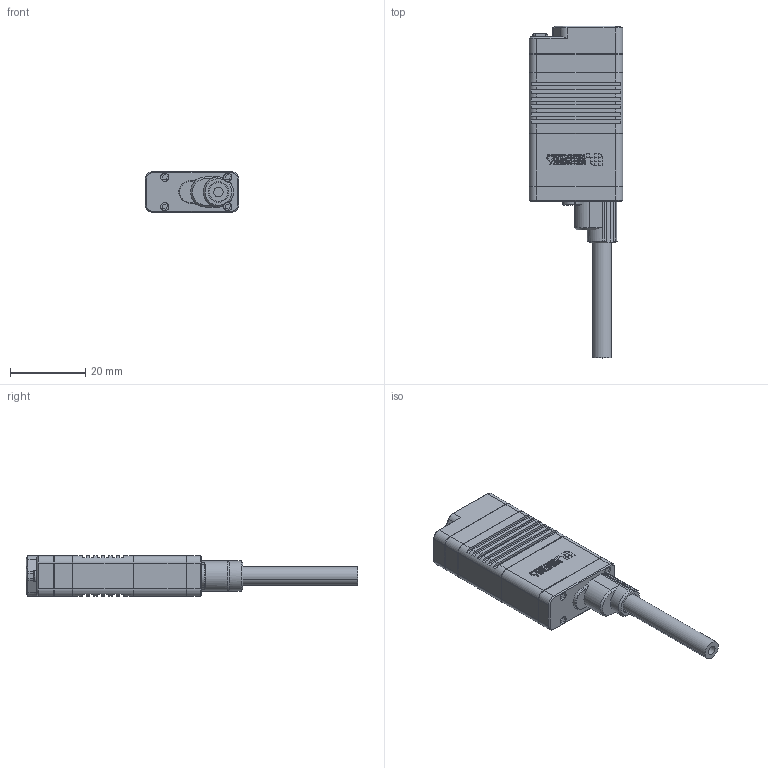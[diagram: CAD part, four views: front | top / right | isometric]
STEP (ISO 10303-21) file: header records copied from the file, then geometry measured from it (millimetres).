
FILE_DESCRIPTION (( 'STEP AP214' ), '1' );
FILE_NAME ('LAS30-0x1D.STEP', '2022-12-28T10:31:55', ( '' ), ( '' ), '', '', '' );
FILE_SCHEMA (( 'AUTOMOTIVE_DESIGN' ));
Length unit declared in the file: millimetre
Products named in the file (3): LAS30-0x1D; 30芢裝_1; LAS30-0x1D^LAS30-0x1D
Assembly tree (2 placements, depth 2):
  LAS30-0x1D
    30芢裝_1
    LAS30-0x1D^LAS30-0x1D
Bounding box: 24.8 x 88 x 10.8 mm (x, y, z)
Volume: 13136.8 mm3; surface area: 5793 mm2
Topology: 2 solids, 11 shells, 1503 faces, 3917 edges, 2562 vertices
Faces by surface type: plane 847, bspline 432, cylinder 154, cone 70
Entity records: 54157 total; most frequent: CARTESIAN_POINT 13863, ORIENTED_EDGE 7832, DIRECTION 5656, EDGE_CURVE 3916, LINE 2606, VECTOR 2606, VERTEX_POINT 2562, EDGE_LOOP 1646
